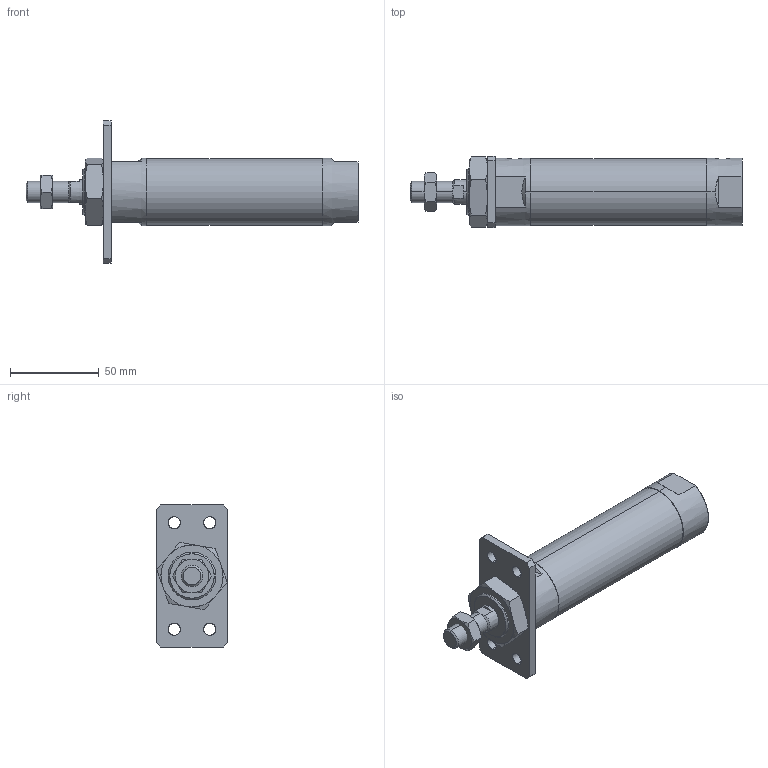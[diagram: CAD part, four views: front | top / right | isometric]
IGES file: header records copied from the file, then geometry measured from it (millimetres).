
Start section: SolidWorks IGES file using analytic representation for surfaces
Global section: file name: C:\Users\Toshiba\Desktop\JGND2-32-50-A.IGS; native system: SolidWorks 2014; preprocessor: SolidWorks 2014; author: Toshiba; date: 160804.104759; units: millimetre
Bounding box: 187 x 40 x 80 mm (x, y, z)
Surface area: 33381.4 mm2 (no closed solid volume)
Topology: 0 solids, 0 shells, 109 faces, 1980 edges, 1976 vertices
Faces by surface type: bspline 66, revolution 43
